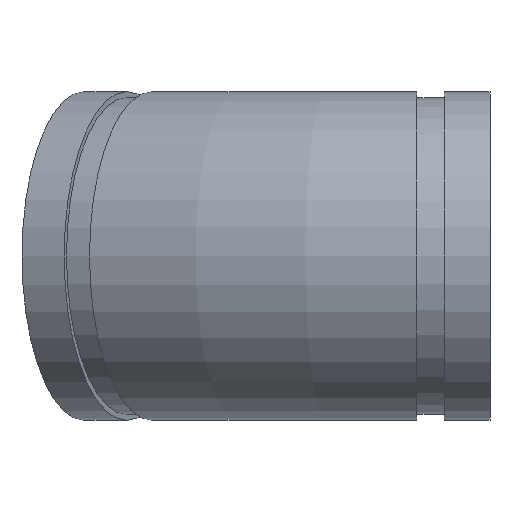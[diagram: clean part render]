
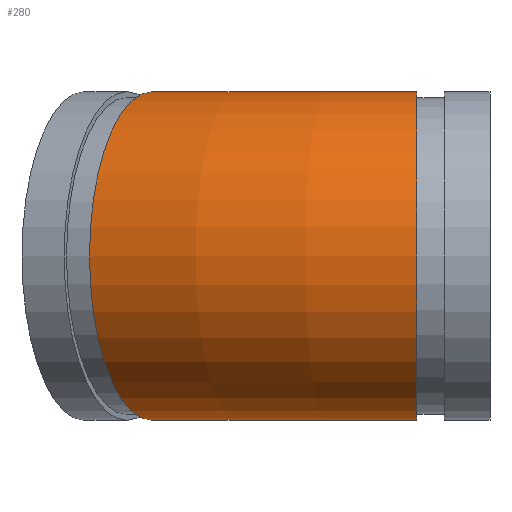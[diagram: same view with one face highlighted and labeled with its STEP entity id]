
A CAD part, left-side view. The second image highlights one B-rep face of the part: STEP entity #280.
In plain terms, the highlighted toroidal (fillet/blend) face has major radius 240.065 mm and minor radius 57.15 mm.
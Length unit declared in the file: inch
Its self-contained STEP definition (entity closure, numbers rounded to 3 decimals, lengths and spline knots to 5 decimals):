
#46=TOROIDAL_SURFACE('',#335,9.4514,2.25);
#78=FACE_OUTER_BOUND('',#96,.T.);
#96=EDGE_LOOP('',(#221,#222,#223,#224,#225,#226));
#105=CIRCLE('',#308,2.25);
#106=CIRCLE('',#309,2.25);
#116=CIRCLE('',#323,2.25);
#117=CIRCLE('',#324,2.25);
#126=CIRCLE('',#336,7.2014);
#131=VERTEX_POINT('',#476);
#132=VERTEX_POINT('',#477);
#142=VERTEX_POINT('',#504);
#143=VERTEX_POINT('',#505);
#155=EDGE_CURVE('',#131,#132,#105,.T.);
#156=EDGE_CURVE('',#132,#131,#106,.T.);
#168=EDGE_CURVE('',#142,#143,#116,.T.);
#169=EDGE_CURVE('',#143,#142,#117,.T.);
#178=EDGE_CURVE('',#132,#143,#126,.T.);
#221=ORIENTED_EDGE('',*,*,#155,.T.);
#222=ORIENTED_EDGE('',*,*,#178,.T.);
#223=ORIENTED_EDGE('',*,*,#169,.T.);
#224=ORIENTED_EDGE('',*,*,#168,.T.);
#225=ORIENTED_EDGE('',*,*,#178,.F.);
#226=ORIENTED_EDGE('',*,*,#156,.T.);
#280=ADVANCED_FACE('',(#78),#46,.T.);
#308=AXIS2_PLACEMENT_3D('',#478,#364,#365);
#309=AXIS2_PLACEMENT_3D('',#479,#366,#367);
#323=AXIS2_PLACEMENT_3D('',#506,#396,#397);
#324=AXIS2_PLACEMENT_3D('',#507,#398,#399);
#335=AXIS2_PLACEMENT_3D('',#525,#420,#421);
#336=AXIS2_PLACEMENT_3D('',#526,#422,#423);
#364=DIRECTION('center_axis',(-0.383,-0.924,0.));
#365=DIRECTION('ref_axis',(0.924,-0.383,0.));
#366=DIRECTION('center_axis',(-0.383,-0.924,0.));
#367=DIRECTION('ref_axis',(0.924,-0.383,0.));
#396=DIRECTION('center_axis',(0.,1.,0.));
#397=DIRECTION('ref_axis',(1.,0.,0.));
#398=DIRECTION('center_axis',(0.,1.,0.));
#399=DIRECTION('ref_axis',(1.,0.,0.));
#420=DIRECTION('center_axis',(0.,0.,-1.));
#421=DIRECTION('ref_axis',(-1.,0.,0.));
#422=DIRECTION('center_axis',(0.,0.,1.));
#423=DIRECTION('ref_axis',(-1.,0.,0.));
#476=CARTESIAN_POINT('',(0.71944,4.61689,2.25));
#477=CARTESIAN_POINT('',(2.79817,3.75586,0.));
#478=CARTESIAN_POINT('Origin',(0.71944,4.61689,0.));
#479=CARTESIAN_POINT('Origin',(0.71944,4.61689,0.));
#504=CARTESIAN_POINT('',(0.,1.,2.25));
#505=CARTESIAN_POINT('',(2.25,1.,0.));
#506=CARTESIAN_POINT('Origin',(0.,1.,0.));
#507=CARTESIAN_POINT('Origin',(0.,1.,0.));
#525=CARTESIAN_POINT('Origin',(9.4514,1.,0.));
#526=CARTESIAN_POINT('Origin',(9.4514,1.,0.));
